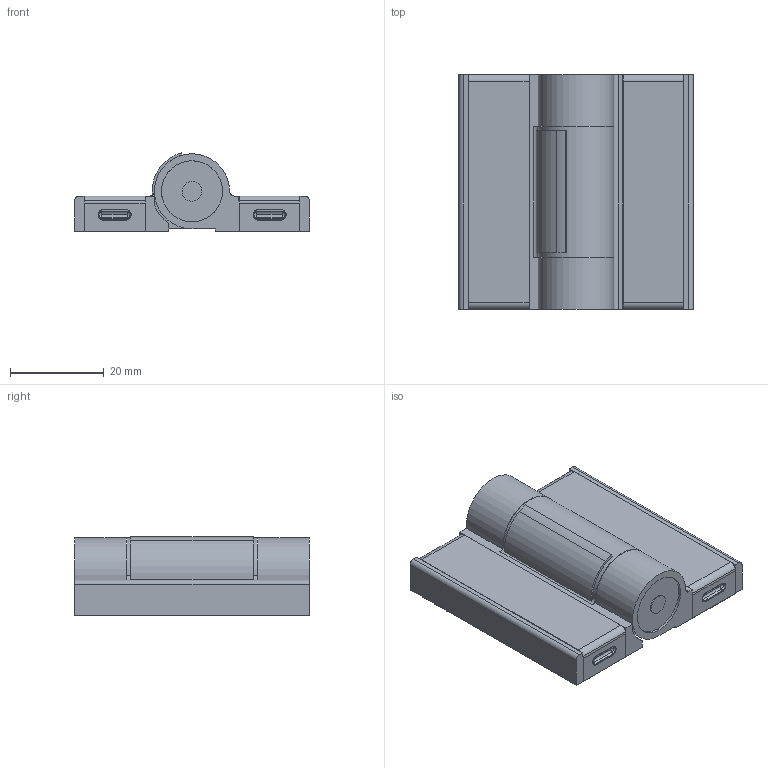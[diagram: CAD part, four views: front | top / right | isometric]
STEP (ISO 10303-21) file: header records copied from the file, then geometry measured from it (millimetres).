
FILE_DESCRIPTION (( 'STEP AP214' ), '1' );
FILE_NAME ('B24 KH-67.stp', '2012-03-20T05:27:08', ( '' ), ( '' ), 'SwSTEP 2.0', 'SolidWorks 2012', '' );
FILE_SCHEMA (( 'AUTOMOTIVE_DESIGN' ));
Length unit declared in the file: millimetre
Products named in the file (5): SHAFT; COVER; HINGE B; HINGE A; B24 KH-67
Assembly tree (5 placements, depth 2):
  B24 KH-67
    HINGE A
    HINGE B
    COVER  x2
    SHAFT
Bounding box: 50 x 50.1 x 16.71 mm (x, y, z)
Volume: 20715.9 mm3; surface area: 16616.6 mm2
Topology: 7 solids, 7 shells, 195 faces, 511 edges, 324 vertices
Faces by surface type: plane 92, cylinder 75, sphere 20, cone 8
Entity records: 5104 total; most frequent: DIRECTION 893, CARTESIAN_POINT 842, ORIENTED_EDGE 816, EDGE_CURVE 408, AXIS2_PLACEMENT_3D 317, VERTEX_POINT 266, LINE 259, VECTOR 259
